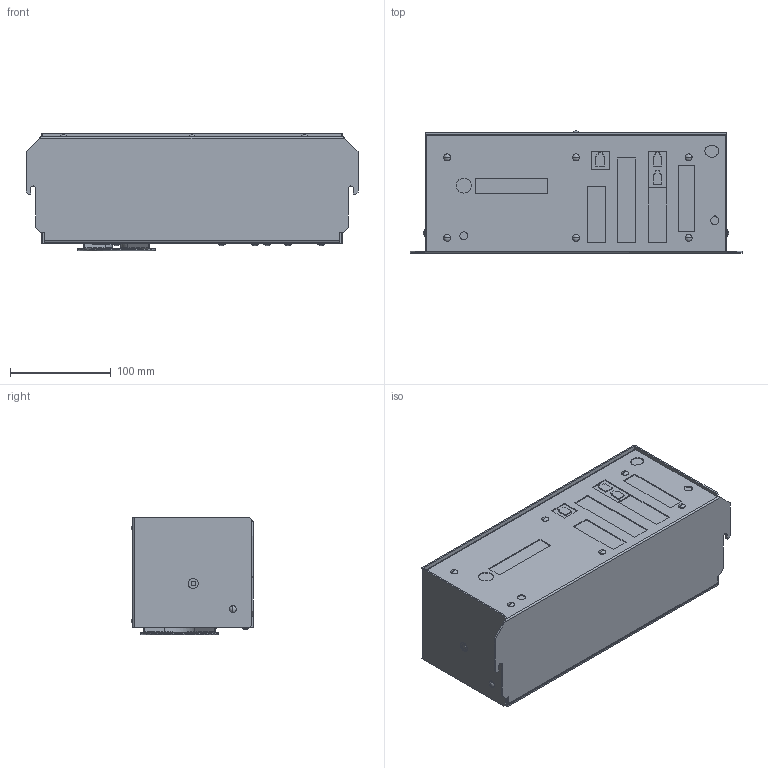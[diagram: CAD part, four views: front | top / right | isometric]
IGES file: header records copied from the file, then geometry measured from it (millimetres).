
Global section: file name: No Iges File Name specified; native system: Autodesk Inventor 2011; preprocessor: AutoDesk Inventor Iges Exporter R2011; author: h-mitaka; date: 20140708.151547; units: millimetre
Bounding box: 330 x 121.4 x 117.01 mm (x, y, z)
Volume: 250007.4 mm3; surface area: 334728.8 mm2
Topology: 1 solids, 1 shells, 400 faces, 1223 edges, 792 vertices
Faces by surface type: plane 217, cylinder 73, revolution 49, sphere 34, torus 21, bspline 6
